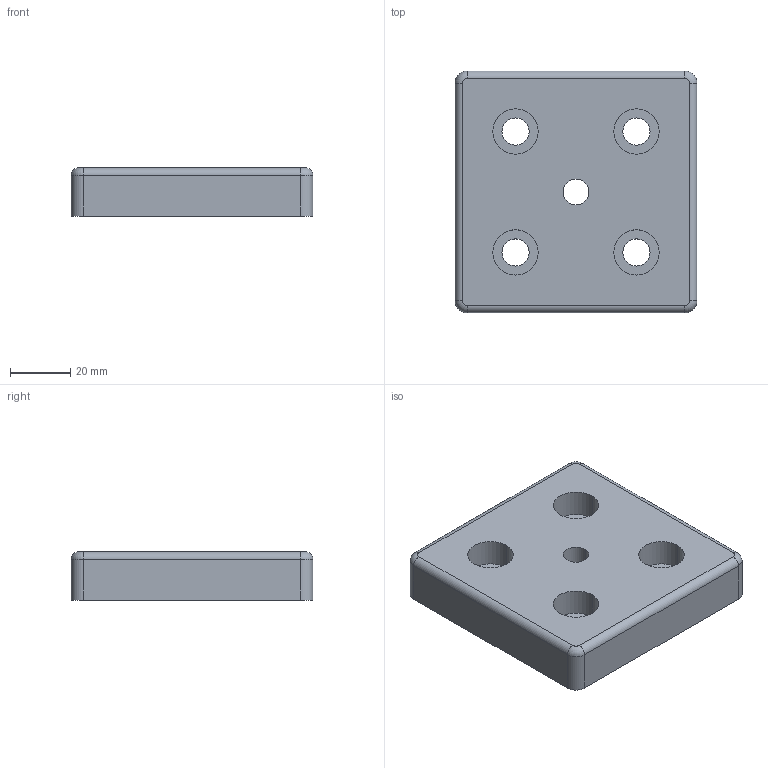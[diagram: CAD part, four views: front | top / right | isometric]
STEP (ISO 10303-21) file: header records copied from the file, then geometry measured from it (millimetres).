
FILE_DESCRIPTION (( 'STEP AP203' ), '1' );
FILE_NAME ('0108FP8080M10.STEP', '2024-03-15T12:28:59', ( 'Windows-Benutzer' ), ( '' ), 'SwSTEP 2.0', 'SolidWorks 2023', '' );
FILE_SCHEMA (( 'CONFIG_CONTROL_DESIGN' ));
Length unit declared in the file: millimetre
Products named in the file (1): 0108FP8080M10
Bounding box: 80 x 80 x 16 mm (x, y, z)
Volume: 92714 mm3; surface area: 19736.9 mm2
Topology: 1 solids, 1 shells, 40 faces, 94 edges, 60 vertices
Faces by surface type: cylinder 26, plane 10, torus 4
Entity records: 1267 total; most frequent: DIRECTION 232, CARTESIAN_POINT 195, ORIENTED_EDGE 188, AXIS2_PLACEMENT_3D 97, EDGE_CURVE 94, VERTEX_POINT 60, CIRCLE 56, EDGE_LOOP 54
